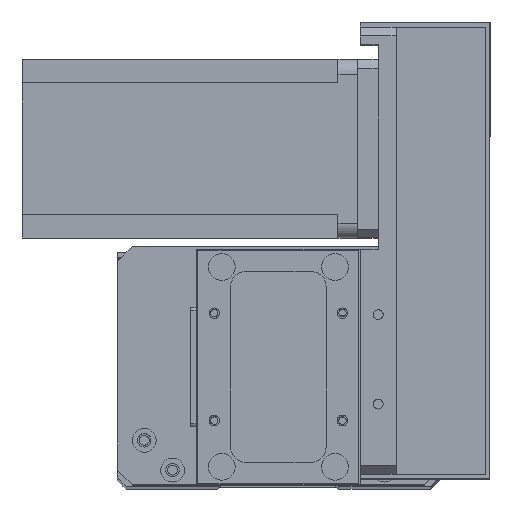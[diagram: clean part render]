
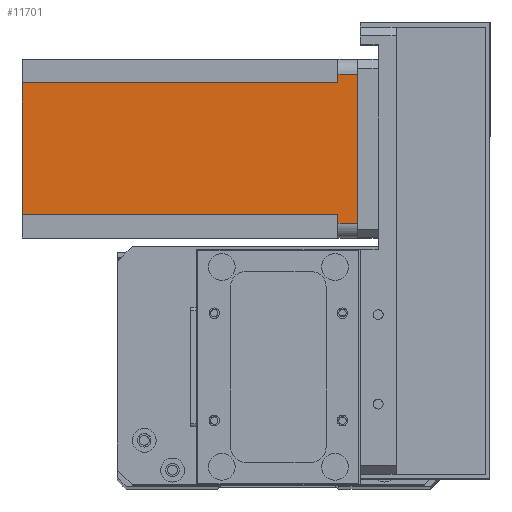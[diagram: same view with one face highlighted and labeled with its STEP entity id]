
A CAD part, top view. The second image highlights one B-rep face of the part: STEP entity #11701.
In plain terms, the highlighted planar face has unit normal (0, 0, 1) as drawn and (0, 1, 0) by its records, which use the part's own axes.
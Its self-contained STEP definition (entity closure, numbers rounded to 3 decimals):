
#25 = ORIENTED_EDGE ( 'NONE', *, *, #10806, .T. ) ;
#164 = ORIENTED_EDGE ( 'NONE', *, *, #8266, .T. ) ;
#306 = CARTESIAN_POINT ( 'NONE',  ( 52., 60., -112.5 ) ) ;
#445 = CARTESIAN_POINT ( 'NONE',  ( 5., 60., -112.5 ) ) ;
#677 = VECTOR ( 'NONE', #21015, 1000. ) ;
#954 = LINE ( 'NONE', #13762, #6196 ) ;
#1260 = PLANE ( 'NONE',  #26167 ) ;
#2020 = ORIENTED_EDGE ( 'NONE', *, *, #14607, .F. ) ;
#2044 = VECTOR ( 'NONE', #8800, 1000. ) ;
#2177 = VECTOR ( 'NONE', #6533, 1000. ) ;
#2866 = CARTESIAN_POINT ( 'NONE',  ( 5., 60., 0. ) ) ;
#3532 = VERTEX_POINT ( 'NONE', #20096 ) ;
#3538 = CARTESIAN_POINT ( 'NONE',  ( 0., 60., -112.5 ) ) ;
#4892 = VERTEX_POINT ( 'NONE', #306 ) ;
#5103 = CARTESIAN_POINT ( 'NONE',  ( 8., 60., -112.5 ) ) ;
#5376 = CARTESIAN_POINT ( 'NONE',  ( 5., 60., -6.5 ) ) ;
#5762 = DIRECTION ( 'NONE',  ( 0., 1., 0. ) ) ;
#5927 = LINE ( 'NONE', #7601, #677 ) ;
#6196 = VECTOR ( 'NONE', #18371, 1000. ) ;
#6533 = DIRECTION ( 'NONE',  ( 0., 0., -1. ) ) ;
#6701 = LINE ( 'NONE', #24451, #24577 ) ;
#6786 = LINE ( 'NONE', #445, #23959 ) ;
#7102 = EDGE_CURVE ( 'NONE', #24836, #20627, #5927, .T. ) ;
#7457 = CARTESIAN_POINT ( 'NONE',  ( 52., 60., -112.5 ) ) ;
#7601 = CARTESIAN_POINT ( 'NONE',  ( 8., 60., -6.5 ) ) ;
#7985 = LINE ( 'NONE', #8708, #2044 ) ;
#8107 = LINE ( 'NONE', #13178, #2177 ) ;
#8266 = EDGE_CURVE ( 'NONE', #4892, #18156, #954, .T. ) ;
#8466 = FACE_OUTER_BOUND ( 'NONE', #13274, .T. ) ;
#8708 = CARTESIAN_POINT ( 'NONE',  ( 52., 60., -6.5 ) ) ;
#8747 = VERTEX_POINT ( 'NONE', #2866 ) ;
#8800 = DIRECTION ( 'NONE',  ( 1., 0., 0. ) ) ;
#8835 = ORIENTED_EDGE ( 'NONE', *, *, #11981, .F. ) ;
#8943 = CARTESIAN_POINT ( 'NONE',  ( 52., 60., -6.5 ) ) ;
#10130 = EDGE_CURVE ( 'NONE', #20627, #8747, #6786, .T. ) ;
#10806 = EDGE_CURVE ( 'NONE', #24874, #3532, #16896, .T. ) ;
#10943 = VECTOR ( 'NONE', #20837, 1000. ) ;
#11148 = VECTOR ( 'NONE', #16335, 1000. ) ;
#11701 = ADVANCED_FACE ( 'NONE', ( #8466 ), #1260, .T. ) ;
#11932 = EDGE_CURVE ( 'NONE', #24836, #18156, #8107, .T. ) ;
#11981 = EDGE_CURVE ( 'NONE', #24874, #8747, #6701, .T. ) ;
#12568 = ORIENTED_EDGE ( 'NONE', *, *, #11932, .F. ) ;
#13024 = ORIENTED_EDGE ( 'NONE', *, *, #10130, .T. ) ;
#13178 = CARTESIAN_POINT ( 'NONE',  ( 8., 60., -112.5 ) ) ;
#13274 = EDGE_LOOP ( 'NONE', ( #8835, #25, #17031, #2020, #164, #12568, #16723, #13024 ) ) ;
#13762 = CARTESIAN_POINT ( 'NONE',  ( 0., 60., -112.5 ) ) ;
#14070 = CARTESIAN_POINT ( 'NONE',  ( 55., 60., -112.5 ) ) ;
#14607 = EDGE_CURVE ( 'NONE', #4892, #21702, #15329, .T. ) ;
#14950 = EDGE_CURVE ( 'NONE', #21702, #3532, #7985, .T. ) ;
#15329 = LINE ( 'NONE', #7457, #11148 ) ;
#16335 = DIRECTION ( 'NONE',  ( 0., 0., 1. ) ) ;
#16723 = ORIENTED_EDGE ( 'NONE', *, *, #7102, .T. ) ;
#16896 = LINE ( 'NONE', #14070, #10943 ) ;
#17031 = ORIENTED_EDGE ( 'NONE', *, *, #14950, .F. ) ;
#18156 = VERTEX_POINT ( 'NONE', #5103 ) ;
#18371 = DIRECTION ( 'NONE',  ( -1., 0., 0. ) ) ;
#20096 = CARTESIAN_POINT ( 'NONE',  ( 55., 60., -6.5 ) ) ;
#20627 = VERTEX_POINT ( 'NONE', #5376 ) ;
#20837 = DIRECTION ( 'NONE',  ( 0., 0., -1. ) ) ;
#21015 = DIRECTION ( 'NONE',  ( -1., 0., 0. ) ) ;
#21418 = DIRECTION ( 'NONE',  ( 0., 0., 1. ) ) ;
#21702 = VERTEX_POINT ( 'NONE', #8943 ) ;
#22284 = DIRECTION ( 'NONE',  ( -1., 0., 0. ) ) ;
#22846 = DIRECTION ( 'NONE',  ( 0., 0., 1. ) ) ;
#23959 = VECTOR ( 'NONE', #22846, 1000. ) ;
#24451 = CARTESIAN_POINT ( 'NONE',  ( 0., 60., 0. ) ) ;
#24577 = VECTOR ( 'NONE', #22284, 1000. ) ;
#24836 = VERTEX_POINT ( 'NONE', #25180 ) ;
#24874 = VERTEX_POINT ( 'NONE', #27518 ) ;
#25180 = CARTESIAN_POINT ( 'NONE',  ( 8., 60., -6.5 ) ) ;
#26167 = AXIS2_PLACEMENT_3D ( 'NONE', #3538, #5762, #21418 ) ;
#27518 = CARTESIAN_POINT ( 'NONE',  ( 55., 60., 0. ) ) ;
